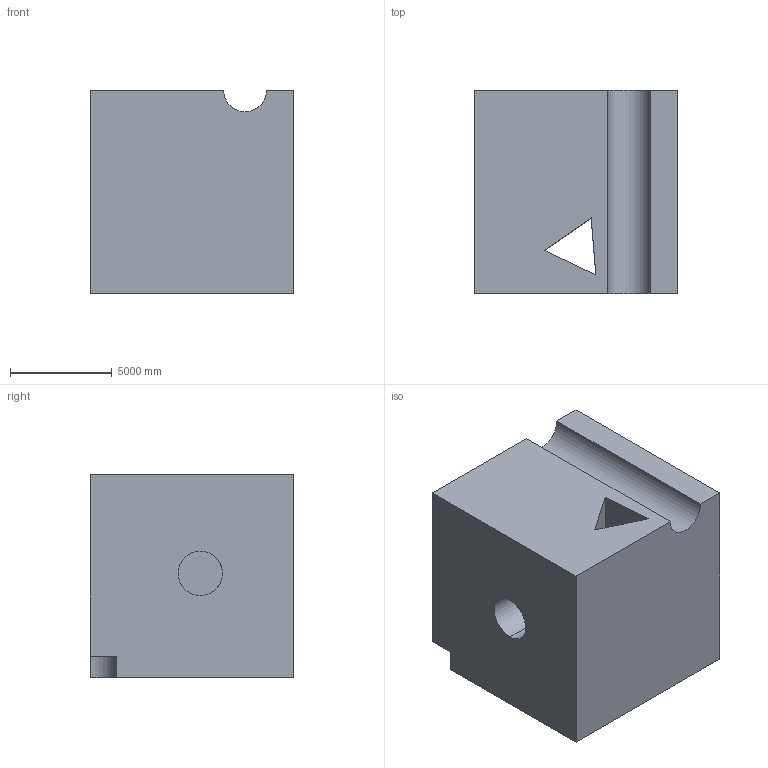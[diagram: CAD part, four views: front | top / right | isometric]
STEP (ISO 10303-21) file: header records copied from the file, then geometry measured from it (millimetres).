
FILE_DESCRIPTION (( 'STEP AP203' ), '1' );
FILE_NAME ('1468.STEP', '2022-08-18T14:39:36', ( 'user' ), ( '' ), 'SwSTEP 2.0', 'SolidWorks 2021', '' );
FILE_SCHEMA (( 'CONFIG_CONTROL_DESIGN' ));
Length unit declared in the file: centimetre
Products named in the file (1): 1468
Bounding box: 10000 x 10000 x 10000 mm (x, y, z)
Volume: 898516706927.1 mm3; surface area: 739924051 mm2
Topology: 1 solids, 1 shells, 19 faces, 51 edges, 34 vertices
Faces by surface type: plane 15, cylinder 4
Entity records: 678 total; most frequent: CARTESIAN_POINT 111, ORIENTED_EDGE 102, DIRECTION 97, EDGE_CURVE 51, VECTOR 41, LINE 41, VERTEX_POINT 34, AXIS2_PLACEMENT_3D 28
